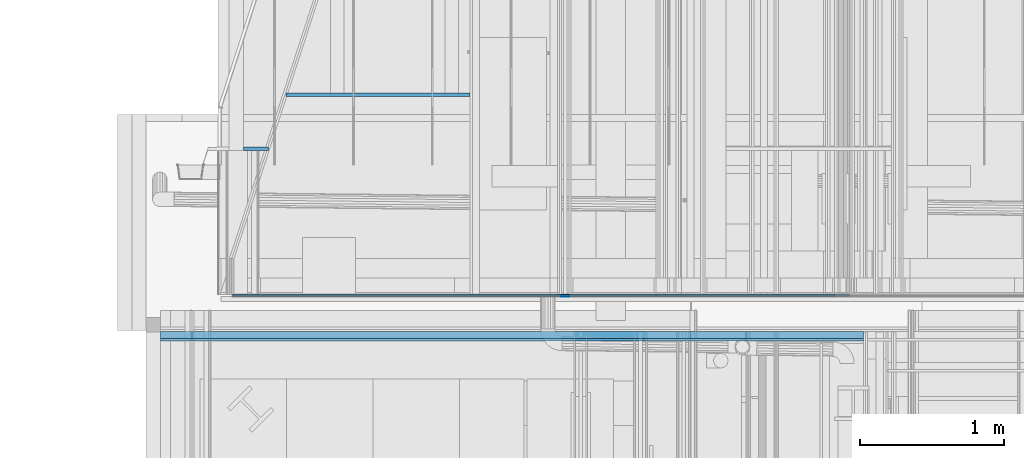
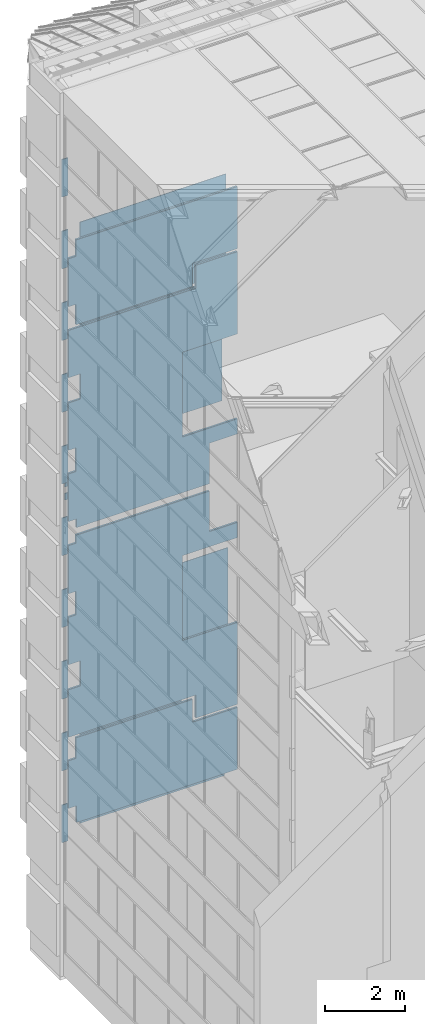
# One storey, part 261 of 583: 25 slabs.
"""IFC2X3 building model written with IfcOpenShell, lengths in metres."""

from ifc_helpers import new_model, entity, si_unit, converted_unit, derived_unit, money_unit, direction, frame, origin_with_axes, place, context, subcontext, project, spatial, faceted_brep, material, type_object, element, save


model = new_model("IFC2X3")

# Units and contexts
model_context = context("Model", 3, precision=1e-05, world=origin_with_axes(), true_north=direction((0.0, 1.0)))
body_context = subcontext(model_context, "Body", "Model", "MODEL_VIEW", scale=1.0)
ifc_project = project(units=[si_unit("LENGTHUNIT", "METRE"), si_unit("AREAUNIT", "SQUARE_METRE"), si_unit("VOLUMEUNIT", "CUBIC_METRE"), si_unit("ABSORBEDDOSEUNIT", "GRAY"), si_unit("AMOUNTOFSUBSTANCEUNIT", "MOLE"), si_unit("DOSEEQUIVALENTUNIT", "SIEVERT"), si_unit("ELECTRICCAPACITANCEUNIT", "FARAD"), si_unit("ELECTRICCHARGEUNIT", "COULOMB"), si_unit("ELECTRICCONDUCTANCEUNIT", "SIEMENS"), si_unit("ELECTRICCURRENTUNIT", "AMPERE"), si_unit("ELECTRICRESISTANCEUNIT", "OHM"), si_unit("ELECTRICVOLTAGEUNIT", "VOLT"), si_unit("ENERGYUNIT", "JOULE"), si_unit("FORCEUNIT", "NEWTON"), si_unit("FREQUENCYUNIT", "HERTZ"), si_unit("ILLUMINANCEUNIT", "LUX"), si_unit("INDUCTANCEUNIT", "HENRY"), si_unit("LUMINOUSFLUXUNIT", "LUMEN"), si_unit("LUMINOUSINTENSITYUNIT", "CANDELA"), si_unit("MAGNETICFLUXDENSITYUNIT", "TESLA"), si_unit("MAGNETICFLUXUNIT", "WEBER"), si_unit("MASSUNIT", "GRAM"), converted_unit("PLANEANGLEUNIT", "degree", entity("IfcReal", 0.0174532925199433), si_unit("PLANEANGLEUNIT", "RADIAN"), dimensions=[0, 0, 0, 0, 0, 0, 0]), si_unit("POWERUNIT", "WATT"), si_unit("PRESSUREUNIT", "PASCAL"), si_unit("RADIOACTIVITYUNIT", "BECQUEREL"), si_unit("SOLIDANGLEUNIT", "STERADIAN"), si_unit("THERMODYNAMICTEMPERATUREUNIT", "KELVIN"), si_unit("TIMEUNIT", "SECOND"), derived_unit("ACCELERATIONUNIT", [(si_unit("LENGTHUNIT", "METRE"), 1), (si_unit("TIMEUNIT", "SECOND"), -2)]), derived_unit("ANGULARVELOCITYUNIT", [(converted_unit("PLANEANGLEUNIT", "degree", entity("IfcReal", 0.0174532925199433), si_unit("PLANEANGLEUNIT", "RADIAN"), dimensions=[0, 0, 0, 0, 0, 0, 0]), 1), (si_unit("TIMEUNIT", "SECOND"), -1)]), derived_unit("CURVATUREUNIT", [(converted_unit("PLANEANGLEUNIT", "degree", entity("IfcReal", 0.0174532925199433), si_unit("PLANEANGLEUNIT", "RADIAN"), dimensions=[0, 0, 0, 0, 0, 0, 0]), 1), (si_unit("LENGTHUNIT", "METRE"), -1)]), derived_unit("DYNAMICVISCOSITYUNIT", [(si_unit("PRESSUREUNIT", "PASCAL"), 1), (si_unit("TIMEUNIT", "SECOND"), 1)]), derived_unit("HEATFLUXDENSITYUNIT", [(si_unit("POWERUNIT", "WATT"), 1), (si_unit("LENGTHUNIT", "METRE"), -2)]), derived_unit("HEATINGVALUEUNIT", [(si_unit("ENERGYUNIT", "JOULE"), 1), (si_unit("MASSUNIT", "GRAM"), -1)]), derived_unit("INTEGERCOUNTRATEUNIT", [(si_unit("TIMEUNIT", "SECOND"), -1)]), derived_unit("IONCONCENTRATIONUNIT", [(si_unit("MASSUNIT", "GRAM"), 1), (si_unit("VOLUMEUNIT", "CUBIC_METRE"), -1)]), derived_unit("ISOTHERMALMOISTURECAPACITYUNIT", [(si_unit("VOLUMEUNIT", "CUBIC_METRE"), 1), (si_unit("MASSUNIT", "GRAM"), -1)]), derived_unit("KINEMATICVISCOSITYUNIT", [(si_unit("AREAUNIT", "SQUARE_METRE"), 1), (si_unit("TIMEUNIT", "SECOND"), -1)]), derived_unit("LINEARFORCEUNIT", [(si_unit("FORCEUNIT", "NEWTON"), 1), (si_unit("LENGTHUNIT", "METRE"), -1)]), derived_unit("LINEARMOMENTUNIT", [(si_unit("FORCEUNIT", "NEWTON"), 1), (si_unit("LENGTHUNIT", "METRE"), -1)]), derived_unit("LINEARSTIFFNESSUNIT", [(si_unit("FORCEUNIT", "NEWTON"), 1), (si_unit("LENGTHUNIT", "METRE"), -1)]), derived_unit("LINEARVELOCITYUNIT", [(si_unit("LENGTHUNIT", "METRE"), 1), (si_unit("TIMEUNIT", "SECOND"), -1)]), derived_unit("LUMINOUSINTENSITYDISTRIBUTIONUNIT", [(si_unit("LUMINOUSINTENSITYUNIT", "CANDELA"), 1), (si_unit("LUMINOUSFLUXUNIT", "LUMEN"), -1)]), derived_unit("MASSDENSITYUNIT", [(si_unit("MASSUNIT", "GRAM"), 1), (si_unit("VOLUMEUNIT", "CUBIC_METRE"), -1)]), derived_unit("MASSFLOWRATEUNIT", [(si_unit("MASSUNIT", "GRAM"), 1), (si_unit("TIMEUNIT", "SECOND"), -1)]), derived_unit("MASSPERLENGTHUNIT", [(si_unit("MASSUNIT", "GRAM"), 1), (si_unit("LENGTHUNIT", "METRE"), -1)]), derived_unit("MODULUSOFELASTICITYUNIT", [(si_unit("FORCEUNIT", "NEWTON"), 1), (si_unit("AREAUNIT", "SQUARE_METRE"), -1)]), derived_unit("MODULUSOFLINEARSUBGRADEREACTIONUNIT", [(si_unit("FORCEUNIT", "NEWTON"), 1), (si_unit("LENGTHUNIT", "METRE"), -2)]), derived_unit("MODULUSOFROTATIONALSUBGRADEREACTIONUNIT", [(si_unit("FORCEUNIT", "NEWTON"), 1), (si_unit("LENGTHUNIT", "METRE"), 1)]), derived_unit("MODULUSOFSUBGRADEREACTIONUNIT", [(si_unit("FORCEUNIT", "NEWTON"), 1), (si_unit("VOLUMEUNIT", "CUBIC_METRE"), -1)]), derived_unit("MOISTUREDIFFUSIVITYUNIT", [(si_unit("VOLUMEUNIT", "CUBIC_METRE"), 1), (si_unit("TIMEUNIT", "SECOND"), -1)]), derived_unit("MOLECULARWEIGHTUNIT", [(si_unit("MASSUNIT", "GRAM"), 1), (si_unit("AMOUNTOFSUBSTANCEUNIT", "MOLE"), -1)]), derived_unit("PLANARFORCEUNIT", [(si_unit("FORCEUNIT", "NEWTON"), 1), (si_unit("LENGTHUNIT", "METRE"), -2)]), derived_unit("ROTATIONALFREQUENCYUNIT", [(si_unit("TIMEUNIT", "SECOND"), -1)]), derived_unit("ROTATIONALMASSUNIT", [(si_unit("MASSUNIT", "GRAM"), 1), (si_unit("LENGTHUNIT", "METRE"), 2)]), derived_unit("ROTATIONALSTIFFNESSUNIT", [(si_unit("FORCEUNIT", "NEWTON"), 1), (si_unit("LENGTHUNIT", "METRE"), 1), (converted_unit("PLANEANGLEUNIT", "degree", entity("IfcReal", 0.0174532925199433), si_unit("PLANEANGLEUNIT", "RADIAN"), dimensions=[0, 0, 0, 0, 0, 0, 0]), -1)]), derived_unit("SECTIONAREAINTEGRALUNIT", [(si_unit("LENGTHUNIT", "METRE"), 5)]), derived_unit("SECTIONMODULUSUNIT", [(si_unit("LENGTHUNIT", "METRE"), 3)]), derived_unit("SHEARMODULUSUNIT", [(si_unit("FORCEUNIT", "NEWTON"), 1), (si_unit("AREAUNIT", "SQUARE_METRE"), -1)]), derived_unit("SOUNDPOWERUNIT", [(si_unit("ENERGYUNIT", "JOULE"), 1), (si_unit("TIMEUNIT", "SECOND"), -1)]), derived_unit("SPECIFICHEATCAPACITYUNIT", [(si_unit("FORCEUNIT", "NEWTON"), 1), (si_unit("MASSUNIT", "GRAM"), -1), (si_unit("THERMODYNAMICTEMPERATUREUNIT", "KELVIN"), -1)]), derived_unit("TEMPERATUREGRADIENTUNIT", [(si_unit("THERMODYNAMICTEMPERATUREUNIT", "KELVIN"), 1), (si_unit("LENGTHUNIT", "METRE"), -1)]), derived_unit("THERMALADMITTANCEUNIT", [(si_unit("POWERUNIT", "WATT"), 1), (si_unit("AREAUNIT", "SQUARE_METRE"), -1), (si_unit("THERMODYNAMICTEMPERATUREUNIT", "KELVIN"), -1)]), derived_unit("THERMALCONDUCTANCEUNIT", [(si_unit("POWERUNIT", "WATT"), 1), (si_unit("LENGTHUNIT", "METRE"), -1), (si_unit("THERMODYNAMICTEMPERATUREUNIT", "KELVIN"), -1)]), derived_unit("THERMALEXPANSIONCOEFFICIENTUNIT", [(si_unit("THERMODYNAMICTEMPERATUREUNIT", "KELVIN"), -1)]), derived_unit("THERMALRESISTANCEUNIT", [(si_unit("AREAUNIT", "SQUARE_METRE"), 1), (si_unit("POWERUNIT", "WATT"), -1)]), derived_unit("THERMALTRANSMITTANCEUNIT", [(si_unit("POWERUNIT", "WATT"), 1), (si_unit("AREAUNIT", "SQUARE_METRE"), -1), (si_unit("THERMODYNAMICTEMPERATUREUNIT", "KELVIN"), -1)]), derived_unit("TORQUEUNIT", [(si_unit("FORCEUNIT", "NEWTON"), 1), (si_unit("LENGTHUNIT", "METRE"), 1)]), derived_unit("VAPORPERMEABILITYUNIT", [(si_unit("MASSUNIT", "GRAM"), 1), (si_unit("TIMEUNIT", "SECOND"), -1)]), derived_unit("VOLUMETRICFLOWRATEUNIT", [(si_unit("VOLUMEUNIT", "CUBIC_METRE"), 1), (si_unit("TIMEUNIT", "SECOND"), -1)]), derived_unit("WARPINGCONSTANTUNIT", [(si_unit("LENGTHUNIT", "METRE"), 6)]), derived_unit("WARPINGMOMENTUNIT", [(si_unit("FORCEUNIT", "NEWTON"), 1), (si_unit("LENGTHUNIT", "METRE"), 2)]), money_unit("GBP")], contexts=[model_context])

# Site, building, storey
site_placement = place(None, origin_with_axes())
site = spatial("IfcSite", under=ifc_project, at=site_placement, Name="Site", CompositionType="ELEMENT")
building_placement = place(site_placement, origin_with_axes())
building = spatial("IfcBuilding", under=site, at=building_placement, Name="Building01", CompositionType="ELEMENT")
storey_placement = place(building_placement, frame((0.0, 0.0, 20.78), z_axis=(0.0, 0.0, 1.0), x_axis=(1.0, 0.0, 0.0)))
storey = spatial("IfcBuildingStorey", under=building, at=storey_placement, Name="RL", CompositionType="ELEMENT", Elevation=20.78)

# Slabs
ifc_material_1 = material(Name="A_BSUK_CeilingSoffitFinishes_Suspended")
slab_type_1 = type_object("IfcSlabType", Name="A-FloorsSlabs A_BSUK_Slabs", PredefinedType="FLOOR")
placement = place(storey_placement, frame((0.0, 0.0, -20.78), z_axis=(0.0, 0.0, 1.0), x_axis=(1.0, 0.0, 0.0)))
element("IfcSlab", 1, at=placement, inside=storey, type_object=slab_type_1, material=ifc_material_1, Name="A-FloorsSlabs A_BSUK_Slabs", ObjectType="CompoundSlabLeaf", context=body_context, shape_type="Brep", body=[
    faceted_brep([(4.98, 14.658, 8.6725), (4.98, 14.673, 8.6725), (4.98, 14.673, 9.097536), (4.98, 14.658, 9.097536), (4.98, 14.658, 7.6725), (4.98, 14.673, 7.6725), (4.98, 14.658, 6.595), (4.98, 14.673, 6.595), (3.78, 14.658, 6.595), (3.78, 14.673, 6.595), (3.78, 14.658, 7.295), (3.78, 14.673, 7.295), (3.151781, 14.658, 7.295), (3.151781, 14.673, 7.295), (0.1, 14.658, 7.295), (0.1, 14.673, 7.295), (0.1, 14.658, 8.742), (0.1, 14.673, 8.742), (0.448, 14.658, 8.742), (0.448, 14.673, 8.742), (0.448, 14.658, 9.508), (0.448, 14.673, 9.508), (0.1, 14.658, 9.508), (0.1, 14.673, 9.508), (0.1, 14.658, 10.955), (0.1, 14.673, 10.955), (0.318, 14.658, 10.955), (0.318, 14.673, 10.955), (0.318, 14.658, 11.675), (0.318, 14.673, 11.675), (0.1, 14.658, 11.675), (0.1, 14.673, 11.675), (0.1, 14.658, 13.145), (0.1, 14.673, 13.145), (0.318, 14.658, 13.145), (0.318, 14.673, 13.145), (0.318, 14.658, 13.3875), (0.318, 14.673, 13.3875), (4.164428, 14.658, 13.3875), (4.164428, 14.673, 13.3875), (4.164428, 14.658, 12.15), (4.164428, 14.673, 12.15), (4.98, 14.658, 12.15), (4.98, 14.673, 12.15), (4.98, 14.658, 11.687536), (4.98, 14.673, 11.687536), (3.385, 14.658, 11.687536), (3.385, 14.673, 11.687536), (3.385, 14.658, 9.097536), (3.385, 14.673, 9.097536)], [[[0, 1, 2, 3]], [[4, 5, 1, 0]], [[6, 7, 5, 4]], [[8, 9, 7, 6]], [[10, 11, 9, 8]], [[12, 13, 11, 10]], [[14, 15, 13, 12]], [[16, 17, 15, 14]], [[18, 19, 17, 16]], [[20, 21, 19, 18]], [[22, 23, 21, 20]], [[24, 25, 23, 22]], [[26, 27, 25, 24]], [[28, 29, 27, 26]], [[30, 31, 29, 28]], [[32, 33, 31, 30]], [[34, 35, 33, 32]], [[36, 37, 35, 34]], [[38, 39, 37, 36]], [[40, 41, 39, 38]], [[42, 43, 41, 40]], [[44, 45, 43, 42]], [[46, 47, 45, 44]], [[48, 49, 47, 46]], [[3, 2, 49, 48]], [[1, 5, 7, 9, 11, 13, 15, 17, 19, 21, 23, 25, 27, 29, 31, 33, 35, 37, 39, 41, 43, 45, 47, 49, 2]], [[3, 48, 46, 44, 42, 40, 38, 36, 34, 32, 30, 28, 26, 24, 22, 20, 18, 16, 14, 12, 10, 8, 6, 4, 0]]]),
])
element("IfcSlab", 2, at=placement, inside=storey, type_object=slab_type_1, material=ifc_material_1, Name="A-FloorsSlabs A_BSUK_Slabs", ObjectType="CompoundSlabLeaf", context=body_context, shape_type="Brep", body=[
    faceted_brep([(4.98, 14.658, 17.9025), (4.98, 14.673, 17.9025), (4.98, 14.673, 18.395), (4.98, 14.658, 18.395), (4.232781, 14.658, 17.9025), (4.232781, 14.673, 17.9025), (3.385, 14.658, 17.9025), (3.385, 14.673, 17.9025), (3.385, 14.658, 15.3125), (3.385, 14.673, 15.3125), (4.98, 14.658, 15.3125), (4.98, 14.673, 15.3125), (4.98, 14.658, 14.85), (4.98, 14.673, 14.85), (4.164428, 14.658, 14.85), (4.164428, 14.673, 14.85), (4.164428, 14.658, 13.6125), (4.164428, 14.673, 13.6125), (0.333, 14.658, 13.6125), (0.333, 14.673, 13.6125), (0.333, 14.658, 13.880124), (0.333, 14.673, 13.880124), (0.1, 14.658, 13.880124), (0.1, 14.673, 13.880124), (0.1, 14.658, 15.335), (0.1, 14.673, 15.335), (0.318, 14.658, 15.335), (0.318, 14.673, 15.335), (0.318, 14.658, 16.055), (0.318, 14.673, 16.055), (0.1, 14.658, 16.055), (0.1, 14.673, 16.055), (0.1, 14.658, 17.502), (0.1, 14.673, 17.502), (0.448, 14.658, 17.502), (0.448, 14.673, 17.502), (0.448, 14.658, 18.268), (0.448, 14.673, 18.268), (0.1, 14.658, 18.268), (0.1, 14.673, 18.268), (0.1, 14.658, 19.715), (0.1, 14.673, 19.715), (3.151781, 14.658, 19.715), (3.151781, 14.673, 19.715), (3.78, 14.658, 19.715), (3.78, 14.673, 19.715), (3.78, 14.658, 20.415), (3.78, 14.673, 20.415), (4.98, 14.658, 20.415), (4.98, 14.673, 20.415), (4.98, 14.658, 19.395), (4.98, 14.673, 19.395)], [[[0, 1, 2, 3]], [[4, 5, 1, 0]], [[6, 7, 5, 4]], [[8, 9, 7, 6]], [[10, 11, 9, 8]], [[12, 13, 11, 10]], [[14, 15, 13, 12]], [[16, 17, 15, 14]], [[18, 19, 17, 16]], [[20, 21, 19, 18]], [[22, 23, 21, 20]], [[24, 25, 23, 22]], [[26, 27, 25, 24]], [[28, 29, 27, 26]], [[30, 31, 29, 28]], [[32, 33, 31, 30]], [[34, 35, 33, 32]], [[36, 37, 35, 34]], [[38, 39, 37, 36]], [[40, 41, 39, 38]], [[42, 43, 41, 40]], [[44, 45, 43, 42]], [[46, 47, 45, 44]], [[48, 49, 47, 46]], [[50, 51, 49, 48]], [[3, 2, 51, 50]], [[1, 5, 7, 9, 11, 13, 15, 17, 19, 21, 23, 25, 27, 29, 31, 33, 35, 37, 39, 41, 43, 45, 47, 49, 51, 2]], [[3, 50, 48, 46, 44, 42, 40, 38, 36, 34, 32, 30, 28, 26, 24, 22, 20, 18, 16, 14, 12, 10, 8, 6, 4, 0]]]),
])
element("IfcSlab", 3, at=placement, inside=storey, type_object=slab_type_1, material=ifc_material_1, Name="A-FloorsSlabs A_BSUK_Slabs", ObjectType="CompoundSlabLeaf", context=body_context, shape_type="Brep", body=[
    faceted_brep([(4.98, 14.658, 20.51), (4.98, 14.673, 20.51), (4.98, 14.673, 22.4), (4.98, 14.658, 22.4), (3.685, 14.658, 20.51), (3.685, 14.673, 20.51), (3.685, 14.658, 19.81), (3.685, 14.673, 19.81), (0.318, 14.658, 19.81), (0.318, 14.673, 19.81), (0.318, 14.658, 20.435), (0.318, 14.673, 20.435), (0.1, 14.658, 20.435), (0.1, 14.673, 20.435), (0.1, 14.658, 21.905), (0.1, 14.673, 21.905), (0.318, 14.658, 21.905), (0.318, 14.673, 21.905), (0.318, 14.658, 22.4), (0.318, 14.673, 22.4)], [[[0, 1, 2, 3]], [[4, 5, 1, 0]], [[6, 7, 5, 4]], [[8, 9, 7, 6]], [[10, 11, 9, 8]], [[12, 13, 11, 10]], [[14, 15, 13, 12]], [[16, 17, 15, 14]], [[18, 19, 17, 16]], [[3, 2, 19, 18]], [[1, 5, 7, 9, 11, 13, 15, 17, 19, 2]], [[3, 18, 16, 14, 12, 10, 8, 6, 4, 0]]]),
])
element("IfcSlab", 4, at=placement, inside=storey, type_object=slab_type_1, material=ifc_material_1, Name="A-FloorsSlabs A_BSUK_Slabs", ObjectType="CompoundSlabLeaf", context=body_context, shape_type="Brep", body=[
    faceted_brep([(4.98, 14.658, 4.61), (4.98, 14.673, 4.61), (4.98, 14.673, 6.5), (4.98, 14.658, 6.5), (0.333, 14.658, 4.61), (0.333, 14.673, 4.61), (0.333, 14.658, 5.120124), (0.333, 14.673, 5.120124), (0.1, 14.658, 5.120124), (0.1, 14.673, 5.120124), (0.1, 14.658, 6.575), (0.1, 14.673, 6.575), (0.318, 14.658, 6.575), (0.318, 14.673, 6.575), (0.318, 14.658, 7.2), (0.318, 14.673, 7.2), (3.685, 14.658, 7.2), (3.685, 14.673, 7.2), (3.685, 14.658, 6.5), (3.685, 14.673, 6.5)], [[[0, 1, 2, 3]], [[4, 5, 1, 0]], [[6, 7, 5, 4]], [[8, 9, 7, 6]], [[10, 11, 9, 8]], [[12, 13, 11, 10]], [[14, 15, 13, 12]], [[16, 17, 15, 14]], [[18, 19, 17, 16]], [[3, 2, 19, 18]], [[1, 5, 7, 9, 11, 13, 15, 17, 19, 2]], [[3, 18, 16, 14, 12, 10, 8, 6, 4, 0]]]),
])
ifc_material_2 = material(Name="A_BSUK_Ceramic_WallTiles")
slab_5_placement = place(storey_placement, frame((2.249668, 16.355, -6.980002), z_axis=(0.0, 1.0, 0.0), x_axis=(0.0, 0.0, 1.0)))
element("IfcSlab", 5, at=slab_5_placement, inside=storey, type_object=slab_type_1, material=ifc_material_2, Name="A-FloorsSlabs A_BSUK_Slabs", ObjectType="A-FloorsSlabs A_BSUK_Slabs", context=body_context, shape_type="Brep", body=[
    faceted_brep([(-0.199998, 0.0, 0.0), (-0.199998, 0.0, 0.025), (0.0, 0.0, 0.025), (0.0, 0.0, 0.0), (0.0, -1.279046, 0.025), (0.0, -1.279046, 0.0), (-0.199998, -1.279046, 0.025), (-0.199998, -1.279046, 0.0)], [[[0, 1, 2, 3]], [[3, 2, 4, 5]], [[5, 4, 6, 7]], [[7, 6, 1, 0]], [[1, 6, 4, 2]], [[3, 5, 7, 0]]]),
])
slab_6_placement = place(storey_placement, frame((2.249668, 16.355, -7.579998), z_axis=(0.0, 1.0, 0.0), x_axis=(0.0, 0.0, 1.0)))
element("IfcSlab", 6, at=slab_6_placement, inside=storey, type_object=slab_type_1, material=ifc_material_2, Name="A-FloorsSlabs A_BSUK_Slabs", ObjectType="A-FloorsSlabs A_BSUK_Slabs", context=body_context, shape_type="Brep", body=[
    faceted_brep([(0.0, 0.0, 0.0), (0.0, 0.0, 0.025), (0.199998, 0.0, 0.025), (0.199998, 0.0, 0.0), (0.0, -1.279046, 0.0), (0.0, -1.279046, 0.025), (0.199998, -1.279046, 0.0), (0.199998, -1.279046, 0.025)], [[[0, 1, 2, 3]], [[4, 5, 1, 0]], [[6, 7, 5, 4]], [[3, 2, 7, 6]], [[1, 5, 7, 2]], [[3, 6, 4, 0]]]),
])
ifc_material_3 = material(Name="A_BSUK_ExpandedPolystyreneBoards")
element("IfcSlab", 7, at=placement, inside=storey, type_object=slab_type_1, material=ifc_material_3, Name="A-FloorsSlabs A_BSUK_Slabs", ObjectType="CompoundSlabLeaf", context=body_context, shape_type="Brep", body=[
    faceted_brep([(4.817, 14.965, 22.660024), (4.817, 14.968, 22.660024), (0.6038, 14.968, 22.660024), (0.6038, 14.965, 22.660024), (4.817, 14.965, 19.629976), (4.817, 14.968, 19.629976), (0.6038, 14.965, 19.629976), (0.6038, 14.968, 19.629976), (0.6038, 14.965, 20.590024), (0.6038, 14.968, 20.590024), (0.6038, 14.965, 21.739976), (0.6038, 14.968, 21.739976)], [[[0, 1, 2, 3]], [[4, 5, 1, 0]], [[6, 7, 5, 4]], [[8, 9, 7, 6]], [[10, 11, 9, 8]], [[3, 2, 11, 10]], [[1, 5, 7, 9, 11, 2]], [[3, 10, 8, 6, 4, 0]]]),
])
ifc_material_4 = material(Name="A_BSUK_Timber_Miscellaneous")
element("IfcSlab", 8, at=placement, inside=storey, type_object=slab_type_1, material=ifc_material_4, Name="A-FloorsSlabs A_BSUK_Slabs", ObjectType="CompoundSlabLeaf", context=body_context, shape_type="Brep", body=[
    faceted_brep([(0.849939, 15.98, 4.220024), (0.849939, 16.005, 4.220024), (0.675339, 16.005, 4.220024), (0.675339, 15.98, 4.220024), (0.849939, 15.98, 3.070024), (0.849939, 16.005, 3.070024), (0.675339, 15.98, 3.070025), (0.675339, 16.005, 3.070025)], [[[0, 1, 2, 3]], [[4, 5, 1, 0]], [[6, 7, 5, 4]], [[3, 2, 7, 6]], [[1, 5, 7, 2]], [[3, 6, 4, 0]]]),
])
element("IfcSlab", 9, at=placement, inside=storey, type_object=slab_type_1, material=ifc_material_4, Name="A-FloorsSlabs A_BSUK_Slabs", ObjectType="CompoundSlabLeaf", context=body_context, shape_type="Brep", body=[
    faceted_brep([(0.849939, 15.98, 6.410024), (0.849939, 16.005, 6.410024), (0.675339, 16.005, 6.410024), (0.675339, 15.98, 6.410024), (0.849939, 15.98, 5.260024), (0.849939, 16.005, 5.260024), (0.675339, 15.98, 5.260025), (0.675339, 16.005, 5.260025)], [[[0, 1, 2, 3]], [[4, 5, 1, 0]], [[6, 7, 5, 4]], [[3, 2, 7, 6]], [[1, 5, 7, 2]], [[3, 6, 4, 0]]]),
])
element("IfcSlab", 10, at=placement, inside=storey, type_object=slab_type_1, material=ifc_material_4, Name="A-FloorsSlabs A_BSUK_Slabs", ObjectType="CompoundSlabLeaf", context=body_context, shape_type="Brep", body=[
    faceted_brep([(0.849939, 15.98, 8.600024), (0.849939, 16.005, 8.600024), (0.675339, 16.005, 8.600024), (0.675339, 15.98, 8.600024), (0.849939, 15.98, 7.450024), (0.849939, 16.005, 7.450024), (0.675339, 15.98, 7.450025), (0.675339, 16.005, 7.450025)], [[[0, 1, 2, 3]], [[4, 5, 1, 0]], [[6, 7, 5, 4]], [[3, 2, 7, 6]], [[1, 5, 7, 2]], [[3, 6, 4, 0]]]),
])
element("IfcSlab", 11, at=placement, inside=storey, type_object=slab_type_1, material=ifc_material_4, Name="A-FloorsSlabs A_BSUK_Slabs", ObjectType="CompoundSlabLeaf", context=body_context, shape_type="Brep", body=[
    faceted_brep([(0.849939, 15.98, 10.790024), (0.849939, 16.005, 10.790024), (0.675339, 16.005, 10.790024), (0.675339, 15.98, 10.790024), (0.849939, 15.98, 9.640024), (0.849939, 16.005, 9.640024), (0.675339, 15.98, 9.640025), (0.675339, 16.005, 9.640025)], [[[0, 1, 2, 3]], [[4, 5, 1, 0]], [[6, 7, 5, 4]], [[3, 2, 7, 6]], [[1, 5, 7, 2]], [[3, 6, 4, 0]]]),
])
element("IfcSlab", 12, at=placement, inside=storey, type_object=slab_type_1, material=ifc_material_4, Name="A-FloorsSlabs A_BSUK_Slabs", ObjectType="CompoundSlabLeaf", context=body_context, shape_type="Brep", body=[
    faceted_brep([(0.849939, 15.98, 12.980024), (0.849939, 16.005, 12.980024), (0.675339, 16.005, 12.980024), (0.675339, 15.98, 12.980024), (0.849939, 15.98, 11.830024), (0.849939, 16.005, 11.830024), (0.675339, 15.98, 11.830025), (0.675339, 16.005, 11.830025)], [[[0, 1, 2, 3]], [[4, 5, 1, 0]], [[6, 7, 5, 4]], [[3, 2, 7, 6]], [[1, 5, 7, 2]], [[3, 6, 4, 0]]]),
])
element("IfcSlab", 13, at=placement, inside=storey, type_object=slab_type_1, material=ifc_material_4, Name="A-FloorsSlabs A_BSUK_Slabs", ObjectType="CompoundSlabLeaf", context=body_context, shape_type="Brep", body=[
    faceted_brep([(0.849939, 15.98, 15.170024), (0.849939, 16.005, 15.170024), (0.675339, 16.005, 15.170024), (0.675339, 15.98, 15.170024), (0.849939, 15.98, 14.020024), (0.849939, 16.005, 14.020024), (0.675339, 15.98, 14.020025), (0.675339, 16.005, 14.020025)], [[[0, 1, 2, 3]], [[4, 5, 1, 0]], [[6, 7, 5, 4]], [[3, 2, 7, 6]], [[1, 5, 7, 2]], [[3, 6, 4, 0]]]),
])
element("IfcSlab", 14, at=placement, inside=storey, type_object=slab_type_1, material=ifc_material_4, Name="A-FloorsSlabs A_BSUK_Slabs", ObjectType="CompoundSlabLeaf", context=body_context, shape_type="Brep", body=[
    faceted_brep([(0.849939, 15.98, 17.360024), (0.849939, 16.005, 17.360024), (0.675339, 16.005, 17.360024), (0.675339, 15.98, 17.360024), (0.849939, 15.98, 16.210024), (0.849939, 16.005, 16.210024), (0.675339, 15.98, 16.210025), (0.675339, 16.005, 16.210025)], [[[0, 1, 2, 3]], [[4, 5, 1, 0]], [[6, 7, 5, 4]], [[3, 2, 7, 6]], [[1, 5, 7, 2]], [[3, 6, 4, 0]]]),
])
element("IfcSlab", 15, at=placement, inside=storey, type_object=slab_type_1, material=ifc_material_4, Name="A-FloorsSlabs A_BSUK_Slabs", ObjectType="CompoundSlabLeaf", context=body_context, shape_type="Brep", body=[
    faceted_brep([(0.849939, 15.98, 19.550024), (0.849939, 16.005, 19.550024), (0.675339, 16.005, 19.550024), (0.675339, 15.98, 19.550024), (0.849939, 15.98, 18.400024), (0.849939, 16.005, 18.400024), (0.675339, 15.98, 18.400025), (0.675339, 16.005, 18.400025)], [[[0, 1, 2, 3]], [[4, 5, 1, 0]], [[6, 7, 5, 4]], [[3, 2, 7, 6]], [[1, 5, 7, 2]], [[3, 6, 4, 0]]]),
])
element("IfcSlab", 16, at=placement, inside=storey, type_object=slab_type_1, material=ifc_material_4, Name="A-FloorsSlabs A_BSUK_Slabs", ObjectType="CompoundSlabLeaf", context=body_context, shape_type="Brep", body=[
    faceted_brep([(0.849939, 15.98, 21.740024), (0.849939, 16.005, 21.740024), (0.675339, 16.005, 21.740024), (0.675339, 15.98, 21.740024), (0.849939, 15.98, 20.590024), (0.849939, 16.005, 20.590024), (0.675339, 15.98, 20.590025), (0.675339, 16.005, 20.590025)], [[[0, 1, 2, 3]], [[4, 5, 1, 0]], [[6, 7, 5, 4]], [[3, 2, 7, 6]], [[1, 5, 7, 2]], [[3, 6, 4, 0]]]),
])
element("IfcSlab", 17, at=placement, inside=storey, type_object=slab_type_1, material=ifc_material_4, Name="A-FloorsSlabs A_BSUK_Slabs", ObjectType="CompoundSlabLeaf", context=body_context, shape_type="Brep", body=[
    faceted_brep([(0.849939, 15.98, 23.930024), (0.849939, 16.005, 23.930024), (0.675339, 16.005, 23.930024), (0.675339, 15.98, 23.930024), (0.849939, 15.98, 22.780024), (0.849939, 16.005, 22.780024), (0.675339, 15.98, 22.780025), (0.675339, 16.005, 22.780025)], [[[0, 1, 2, 3]], [[4, 5, 1, 0]], [[6, 7, 5, 4]], [[3, 2, 7, 6]], [[1, 5, 7, 2]], [[3, 6, 4, 0]]]),
])
slab_type_2 = type_object("IfcSlabType", Name="A-FloorsSlabs A_BSUK_ExpandedPolystyreneBoards", PredefinedType="FLOOR")
element("IfcSlab", 18, at=placement, inside=storey, type_object=slab_type_2, material=ifc_material_3, Name="A-FloorsSlabs A_BSUK_ExpandedPolystyreneBoards", ObjectType="CompoundSlabLeaf", context=body_context, shape_type="Brep", body=[
    faceted_brep([(4.98, 14.673, 8.6725), (4.98, 14.723, 8.6725), (4.98, 14.723, 9.097536), (4.98, 14.673, 9.097536), (4.98, 14.673, 7.6725), (4.98, 14.723, 7.6725), (4.98, 14.673, 6.595), (4.98, 14.723, 6.595), (3.78, 14.673, 6.595), (3.78, 14.723, 6.595), (3.78, 14.673, 7.295), (3.78, 14.723, 7.295), (3.151781, 14.673, 7.295), (3.151781, 14.723, 7.295), (0.1, 14.673, 7.295), (0.1, 14.723, 7.295), (0.1, 14.673, 8.742), (0.1, 14.723, 8.742), (0.448, 14.673, 8.742), (0.448, 14.723, 8.742), (0.448, 14.673, 9.508), (0.448, 14.723, 9.508), (0.1, 14.673, 9.508), (0.1, 14.723, 9.508), (0.1, 14.673, 10.955), (0.1, 14.723, 10.955), (0.318, 14.673, 10.955), (0.318, 14.723, 10.955), (0.318, 14.673, 11.675), (0.318, 14.723, 11.675), (0.1, 14.673, 11.675), (0.1, 14.723, 11.675), (0.1, 14.673, 13.145), (0.1, 14.723, 13.145), (0.318, 14.673, 13.145), (0.318, 14.723, 13.145), (0.318, 14.673, 13.3875), (0.318, 14.723, 13.3875), (4.164428, 14.673, 13.3875), (4.164428, 14.723, 13.3875), (4.164428, 14.673, 12.15), (4.164428, 14.723, 12.15), (4.98, 14.673, 12.15), (4.98, 14.723, 12.15), (4.98, 14.673, 11.687536), (4.98, 14.723, 11.687536), (3.385, 14.673, 11.687536), (3.385, 14.723, 11.687536), (3.385, 14.673, 9.097536), (3.385, 14.723, 9.097536)], [[[0, 1, 2, 3]], [[4, 5, 1, 0]], [[6, 7, 5, 4]], [[8, 9, 7, 6]], [[10, 11, 9, 8]], [[12, 13, 11, 10]], [[14, 15, 13, 12]], [[16, 17, 15, 14]], [[18, 19, 17, 16]], [[20, 21, 19, 18]], [[22, 23, 21, 20]], [[24, 25, 23, 22]], [[26, 27, 25, 24]], [[28, 29, 27, 26]], [[30, 31, 29, 28]], [[32, 33, 31, 30]], [[34, 35, 33, 32]], [[36, 37, 35, 34]], [[38, 39, 37, 36]], [[40, 41, 39, 38]], [[42, 43, 41, 40]], [[44, 45, 43, 42]], [[46, 47, 45, 44]], [[48, 49, 47, 46]], [[3, 2, 49, 48]], [[1, 5, 7, 9, 11, 13, 15, 17, 19, 21, 23, 25, 27, 29, 31, 33, 35, 37, 39, 41, 43, 45, 47, 49, 2]], [[3, 48, 46, 44, 42, 40, 38, 36, 34, 32, 30, 28, 26, 24, 22, 20, 18, 16, 14, 12, 10, 8, 6, 4, 0]]]),
])
element("IfcSlab", 19, at=placement, inside=storey, type_object=slab_type_2, material=ifc_material_3, Name="A-FloorsSlabs A_BSUK_ExpandedPolystyreneBoards", ObjectType="CompoundSlabLeaf", context=body_context, shape_type="Brep", body=[
    faceted_brep([(4.98, 14.673, 17.9025), (4.98, 14.723, 17.9025), (4.98, 14.723, 18.395), (4.98, 14.673, 18.395), (4.232781, 14.673, 17.9025), (4.232781, 14.723, 17.9025), (3.385, 14.673, 17.9025), (3.385, 14.723, 17.9025), (3.385, 14.673, 15.3125), (3.385, 14.723, 15.3125), (4.98, 14.673, 15.3125), (4.98, 14.723, 15.3125), (4.98, 14.673, 14.85), (4.98, 14.723, 14.85), (4.164428, 14.673, 14.85), (4.164428, 14.723, 14.85), (4.164428, 14.673, 13.6125), (4.164428, 14.723, 13.6125), (0.333, 14.673, 13.6125), (0.333, 14.723, 13.6125), (0.333, 14.673, 13.880124), (0.333, 14.723, 13.880124), (0.1, 14.673, 13.880124), (0.1, 14.723, 13.880124), (0.1, 14.673, 15.335), (0.1, 14.723, 15.335), (0.318, 14.673, 15.335), (0.318, 14.723, 15.335), (0.318, 14.673, 16.055), (0.318, 14.723, 16.055), (0.1, 14.673, 16.055), (0.1, 14.723, 16.055), (0.1, 14.673, 17.502), (0.1, 14.723, 17.502), (0.448, 14.673, 17.502), (0.448, 14.723, 17.502), (0.448, 14.673, 18.268), (0.448, 14.723, 18.268), (0.1, 14.673, 18.268), (0.1, 14.723, 18.268), (0.1, 14.673, 19.715), (0.1, 14.723, 19.715), (3.151781, 14.673, 19.715), (3.151781, 14.723, 19.715), (3.78, 14.673, 19.715), (3.78, 14.723, 19.715), (3.78, 14.673, 20.415), (3.78, 14.723, 20.415), (4.98, 14.673, 20.415), (4.98, 14.723, 20.415), (4.98, 14.673, 19.395), (4.98, 14.723, 19.395)], [[[0, 1, 2, 3]], [[4, 5, 1, 0]], [[6, 7, 5, 4]], [[8, 9, 7, 6]], [[10, 11, 9, 8]], [[12, 13, 11, 10]], [[14, 15, 13, 12]], [[16, 17, 15, 14]], [[18, 19, 17, 16]], [[20, 21, 19, 18]], [[22, 23, 21, 20]], [[24, 25, 23, 22]], [[26, 27, 25, 24]], [[28, 29, 27, 26]], [[30, 31, 29, 28]], [[32, 33, 31, 30]], [[34, 35, 33, 32]], [[36, 37, 35, 34]], [[38, 39, 37, 36]], [[40, 41, 39, 38]], [[42, 43, 41, 40]], [[44, 45, 43, 42]], [[46, 47, 45, 44]], [[48, 49, 47, 46]], [[50, 51, 49, 48]], [[3, 2, 51, 50]], [[1, 5, 7, 9, 11, 13, 15, 17, 19, 21, 23, 25, 27, 29, 31, 33, 35, 37, 39, 41, 43, 45, 47, 49, 51, 2]], [[3, 50, 48, 46, 44, 42, 40, 38, 36, 34, 32, 30, 28, 26, 24, 22, 20, 18, 16, 14, 12, 10, 8, 6, 4, 0]]]),
])
element("IfcSlab", 20, at=placement, inside=storey, type_object=slab_type_2, material=ifc_material_3, Name="A-FloorsSlabs A_BSUK_ExpandedPolystyreneBoards", ObjectType="CompoundSlabLeaf", context=body_context, shape_type="Brep", body=[
    faceted_brep([(4.98, 14.673, 20.51), (4.98, 14.723, 20.51), (4.98, 14.723, 22.4), (4.98, 14.673, 22.4), (3.685, 14.673, 20.51), (3.685, 14.723, 20.51), (3.685, 14.673, 19.81), (3.685, 14.723, 19.81), (0.318, 14.673, 19.81), (0.318, 14.723, 19.81), (0.318, 14.673, 20.435), (0.318, 14.723, 20.435), (0.1, 14.673, 20.435), (0.1, 14.723, 20.435), (0.1, 14.673, 21.905), (0.1, 14.723, 21.905), (0.318, 14.673, 21.905), (0.318, 14.723, 21.905), (0.318, 14.673, 22.4), (0.318, 14.723, 22.4)], [[[0, 1, 2, 3]], [[4, 5, 1, 0]], [[6, 7, 5, 4]], [[8, 9, 7, 6]], [[10, 11, 9, 8]], [[12, 13, 11, 10]], [[14, 15, 13, 12]], [[16, 17, 15, 14]], [[18, 19, 17, 16]], [[3, 2, 19, 18]], [[1, 5, 7, 9, 11, 13, 15, 17, 19, 2]], [[3, 18, 16, 14, 12, 10, 8, 6, 4, 0]]]),
])
element("IfcSlab", 21, at=placement, inside=storey, type_object=slab_type_2, material=ifc_material_3, Name="A-FloorsSlabs A_BSUK_ExpandedPolystyreneBoards", ObjectType="CompoundSlabLeaf", context=body_context, shape_type="Brep", body=[
    faceted_brep([(4.98, 14.673, 4.61), (4.98, 14.723, 4.61), (4.98, 14.723, 6.5), (4.98, 14.673, 6.5), (0.333, 14.673, 4.61), (0.333, 14.723, 4.61), (0.333, 14.673, 5.120124), (0.333, 14.723, 5.120124), (0.1, 14.673, 5.120124), (0.1, 14.723, 5.120124), (0.1, 14.673, 6.575), (0.1, 14.723, 6.575), (0.318, 14.673, 6.575), (0.318, 14.723, 6.575), (0.318, 14.673, 7.2), (0.318, 14.723, 7.2), (3.685, 14.673, 7.2), (3.685, 14.723, 7.2), (3.685, 14.673, 6.5), (3.685, 14.723, 6.5)], [[[0, 1, 2, 3]], [[4, 5, 1, 0]], [[6, 7, 5, 4]], [[8, 9, 7, 6]], [[10, 11, 9, 8]], [[12, 13, 11, 10]], [[14, 15, 13, 12]], [[16, 17, 15, 14]], [[18, 19, 17, 16]], [[3, 2, 19, 18]], [[1, 5, 7, 9, 11, 13, 15, 17, 19, 2]], [[3, 18, 16, 14, 12, 10, 8, 6, 4, 0]]]),
])
ifc_material_5 = material(Name="A_BSUK_Carpet-Pile")
slab_type_3 = type_object("IfcSlabType", Name="A-Finishes A_BSUK_Carpet-Pile", PredefinedType="FLOOR")
element("IfcSlab", 22, at=placement, inside=storey, type_object=slab_type_3, material=ifc_material_5, Name="A-Finishes A_BSUK_Carpet-Pile", ObjectType="CompoundSlabLeaf", context=body_context, shape_type="Brep", body=[
    faceted_brep([(4.817, 14.968, 22.660024), (4.817, 14.98, 22.660024), (0.6038, 14.98, 22.660024), (0.6038, 14.968, 22.660024), (4.817, 14.968, 19.629976), (4.817, 14.98, 19.629976), (0.6038, 14.968, 19.629976), (0.6038, 14.98, 19.629976), (0.6038, 14.968, 20.590024), (0.6038, 14.98, 20.590024), (0.6038, 14.968, 21.739976), (0.6038, 14.98, 21.739976)], [[[0, 1, 2, 3]], [[4, 5, 1, 0]], [[6, 7, 5, 4]], [[8, 9, 7, 6]], [[10, 11, 9, 8]], [[3, 2, 11, 10]], [[1, 5, 7, 9, 11, 2]], [[3, 10, 8, 6, 4, 0]]]),
])
element("IfcSlab", 23, at=placement, inside=storey, type_object=slab_type_3, material=ifc_material_5, Name="A-Finishes A_BSUK_Carpet-Pile", ObjectType="CompoundSlabLeaf", context=body_context, shape_type="Brep", body=[
    faceted_brep([(4.817, 14.968, 19.549976), (4.817, 14.98, 19.549976), (0.6038, 14.98, 19.549976), (0.6038, 14.968, 19.549976), (4.817, 14.968, 17.73844), (4.817, 14.98, 17.73844), (4.717, 14.968, 17.73844), (4.717, 14.98, 17.73844), (4.717, 14.968, 15.77), (4.717, 14.98, 15.77), (0.6038, 14.968, 15.77), (0.6038, 14.98, 15.77), (0.6038, 14.968, 16.210024), (0.6038, 14.98, 16.210024), (0.6038, 14.968, 17.359976), (0.6038, 14.98, 17.359976), (0.6038, 14.968, 18.400024), (0.6038, 14.98, 18.400024)], [[[0, 1, 2, 3]], [[4, 5, 1, 0]], [[6, 7, 5, 4]], [[8, 9, 7, 6]], [[10, 11, 9, 8]], [[12, 13, 11, 10]], [[14, 15, 13, 12]], [[16, 17, 15, 14]], [[3, 2, 17, 16]], [[1, 5, 7, 9, 11, 13, 15, 17, 2]], [[3, 16, 14, 12, 10, 8, 6, 4, 0]]]),
])
element("IfcSlab", 24, at=placement, inside=storey, type_object=slab_type_3, material=ifc_material_5, Name="A-Finishes A_BSUK_Carpet-Pile", ObjectType="CompoundSlabLeaf", context=body_context, shape_type="Brep", body=[
    faceted_brep([(4.88, 14.968, 7.44), (4.88, 14.98, 7.44), (4.88, 14.98, 11.23), (4.88, 14.968, 11.23), (0.599916, 14.968, 7.439911), (0.599916, 14.98, 7.439911), (0.6038, 14.968, 8.599976), (0.6038, 14.98, 8.599976), (0.6038, 14.968, 9.640024), (0.6038, 14.98, 9.640024), (0.6038, 14.968, 10.790024), (0.6038, 14.98, 10.790024), (0.6038, 14.968, 11.23), (0.6038, 14.98, 11.23)], [[[0, 1, 2, 3]], [[4, 5, 1, 0]], [[6, 7, 5, 4]], [[8, 9, 7, 6]], [[10, 11, 9, 8]], [[12, 13, 11, 10]], [[3, 2, 13, 12]], [[1, 5, 7, 9, 11, 13, 2]], [[3, 12, 10, 8, 6, 4, 0]]]),
])
element("IfcSlab", 25, at=placement, inside=storey, type_object=slab_type_3, material=ifc_material_5, Name="A-Finishes A_BSUK_Carpet-Pile", ObjectType="CompoundSlabLeaf", context=body_context, shape_type="Brep", body=[
    faceted_brep([(3.539939, 14.968, 7.36), (3.539939, 14.98, 7.36), (0.599916, 14.98, 7.36), (0.599916, 14.968, 7.36), (3.539939, 14.968, 6.120098), (3.539939, 14.98, 6.120098), (4.779939, 14.968, 6.120098), (4.779939, 14.98, 6.120098), (4.779939, 14.968, 4.299976), (4.779939, 14.98, 4.299976), (0.6038, 14.968, 4.299976), (0.6038, 14.98, 4.299976), (0.6038, 14.968, 5.260024), (0.6038, 14.98, 5.260024), (0.6038, 14.968, 6.409976), (0.6038, 14.98, 6.409976), (0.599916, 14.968, 6.409976), (0.599916, 14.98, 6.409976)], [[[0, 1, 2, 3]], [[4, 5, 1, 0]], [[6, 7, 5, 4]], [[8, 9, 7, 6]], [[10, 11, 9, 8]], [[12, 13, 11, 10]], [[14, 15, 13, 12]], [[16, 17, 15, 14]], [[3, 2, 17, 16]], [[1, 5, 7, 9, 11, 13, 15, 17, 2]], [[3, 16, 14, 12, 10, 8, 6, 4, 0]]]),
])

save(model, "model.ifc")
